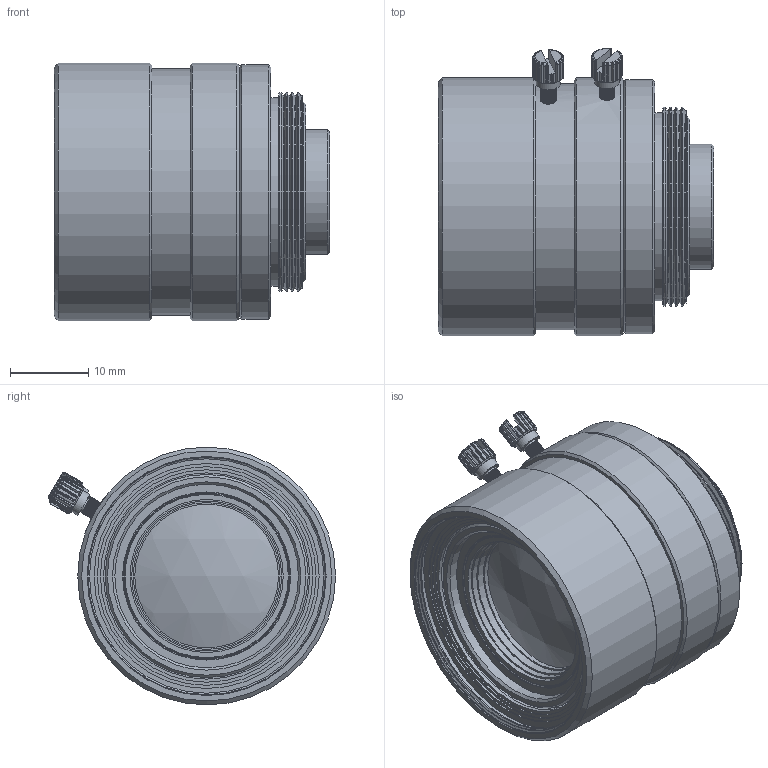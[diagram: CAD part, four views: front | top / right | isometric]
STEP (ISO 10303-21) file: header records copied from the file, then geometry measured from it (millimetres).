
FILE_DESCRIPTION(/* description */ ('TCL 2518 5MP'),/* implementation_level */ '2;1');
FILE_NAME(/* name */ 'D:\1_Konstruktion\1_KUNDEN\TIS\199-15_Objektive_Step-Dateien für Endkundem\C-Objektive (8x)\Lens_TCL 2518 5MP.stp',/* time_stamp */ '2016-01-28T19:59:26+01:00',/* author */ ('khw'),/* organization */ (''),/* preprocessor_version */ 'ST-DEVELOPER v15.2',/* originating_system */ 'Autodesk Inventor 2014',/* authorisation */ '6767,5 mm^3');
FILE_SCHEMA (('AUTOMOTIVE_DESIGN { 1 0 10303 214 3 1 1 }'));
Length unit declared in the file: millimetre
Products named in the file (1): Lens_TCL 2518 5MP
Bounding box: 35.28 x 36.75 x 33 mm (x, y, z)
Volume: 1680.8 mm3; surface area: 15362 mm2
Topology: 1 solids, 2 shells, 760 faces, 2388 edges, 1316 vertices
Faces by surface type: bspline 304, cylinder 236, plane 147, cone 67, torus 4, sphere 2
Full cylindrical faces by diameter (mm): 2 x41, 3.1 x2, 11.281 x1, 13 x1, 14 x1, 14.2 x1, 14.607 x1, 15 x2, 15.207 x1, 16 x1, 16.8 x1, 18.4 x1, 18.8 x1, 19.2 x1, 19.6 x1, 20.3 x2, 20.95 x1, 21.8 x1, 22.48 x1, 23 x1, 23.066 x1, 23.5 x1, 24.066 x1, 24.5 x1, 25.466 x4, 26 x15, 26.4 x1, 26.48 x1, 27.2 x1, 28 x1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
Entity records: 66892 total; most frequent: CARTESIAN_POINT 49259, ORIENTED_EDGE 4056, DIRECTION 2938, EDGE_CURVE 2028, AXIS2_PLACEMENT_3D 1298, VERTEX_POINT 1252, EDGE_LOOP 876, CIRCLE 874
